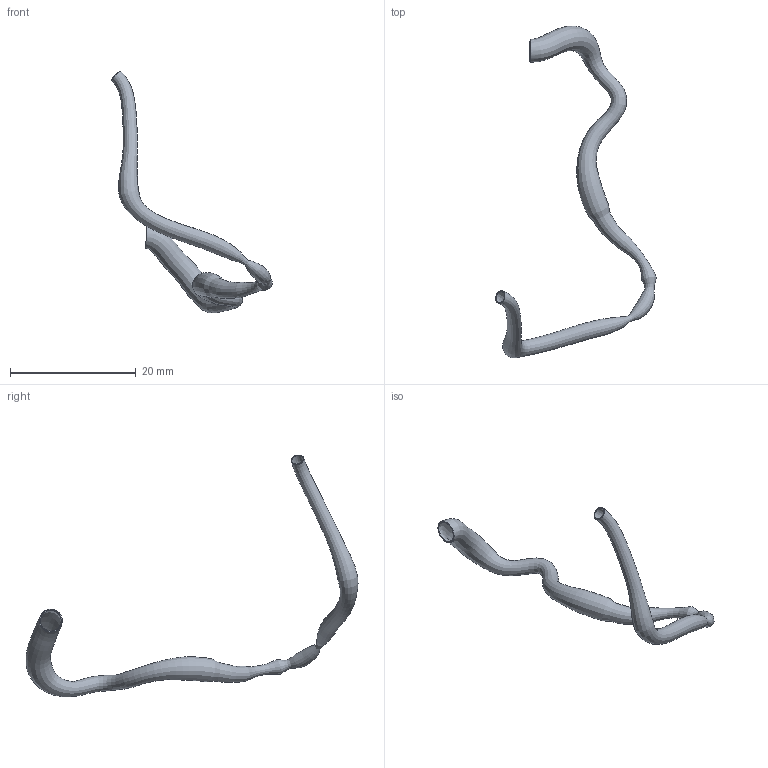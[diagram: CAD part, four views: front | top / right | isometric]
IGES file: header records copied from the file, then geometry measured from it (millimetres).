
Global section: file name: C:\Documents and Settings\Administrator\Desktop\FDA Bifurcation win\RawData_for_IGES\HRCA_Data\20000201.093459\IGES\20000201.093459.RCA.SEG.ES.igs; native system: Rhinoceros ( May 19 2006 ); preprocessor: Trout Lake IGES 012 May 19 2006; date: 100728.200701; units: centimetre
Bounding box: 25.58 x 52.8 x 38.46 mm (x, y, z)
Surface area: 1784.7 mm2 (no closed solid volume)
Topology: 0 solids, 0 shells, 4 faces, 12 edges, 8 vertices
Faces by surface type: bspline 4
